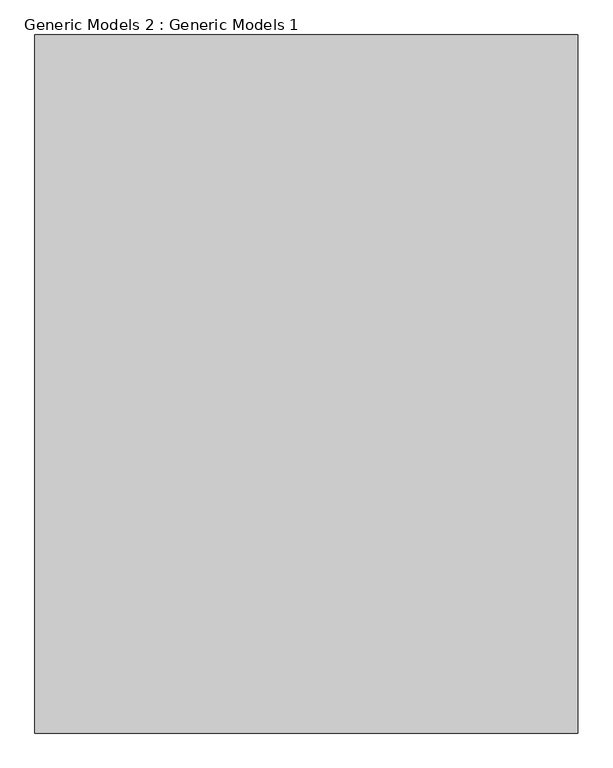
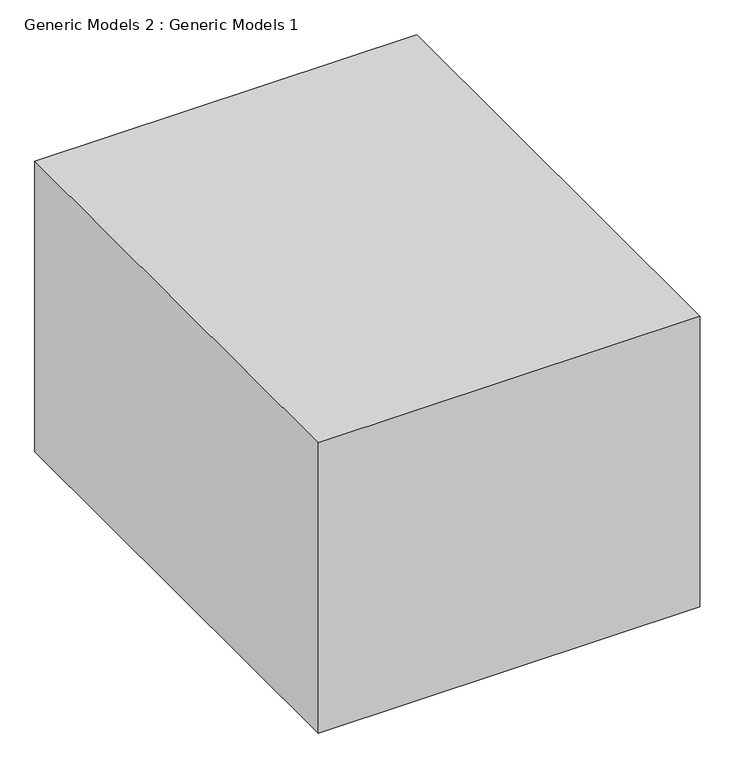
"""IFC4 building model written with IfcOpenShell, lengths in millimetres: proxy geometry, Generic Models 2 : Generic Models 1."""

from ifc_helpers import new_model, si_unit, origin, origin_with_axes, place, context, project, spatial, polyline, outline, extrude, source, transform, mapped, element, save


def generic_models_2_generic_models_1_18057a31(model_context):
    return source(origin(), model_context, "Body", "SweptSolid", [
        extrude(outline(polyline([(-13746.0639868, -11341.3904161), (-13746.0639868, -5941.3904161), (-9546.0639868, -5941.3904161), (-9546.0639868, -11341.3904161), (-13746.0639868, -11341.3904161)])), origin_with_axes(), (0.0, 0.0, 1.0), 3376.7056986),
    ])


if __name__ == "__main__":
    model = new_model("IFC4")
    model_context = context("Model", 3, world=origin())
    ifc_project = project(units=[si_unit("LENGTHUNIT", "METRE", prefix="MILLI")], contexts=[model_context])
    site = spatial("IfcSite", under=ifc_project)
    building = spatial("IfcBuilding", under=site)
    placement = place(None, origin())
    generic_models_2_generic_models_1_shape = generic_models_2_generic_models_1_18057a31(model_context)
    element("IfcBuildingElementProxy", 1, Name="Generic Models 2 : Generic Models 1", ObjectType="Generic Models 2 : Generic Models 1", at=placement, inside=building, context=model_context, shape_type="MappedRepresentation", body=[
        mapped(generic_models_2_generic_models_1_shape, transform((0.0, 0.0, 0.0), x_axis=(1.0, 0.0, 0.0), y_axis=(0.0, 1.0, 0.0), z_axis=(0.0, 0.0, 1.0))),
    ])
    save(model, "model.ifc")
